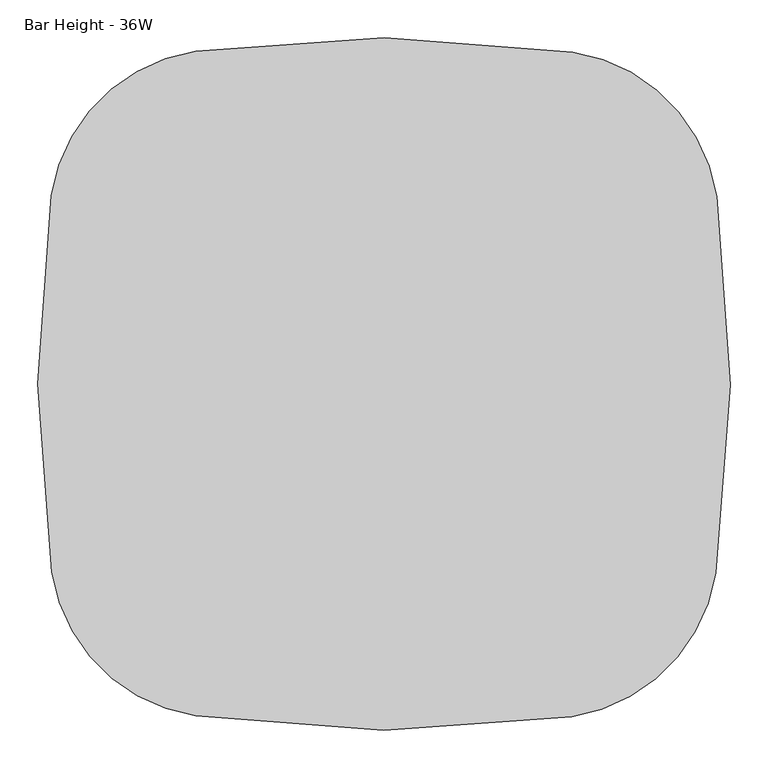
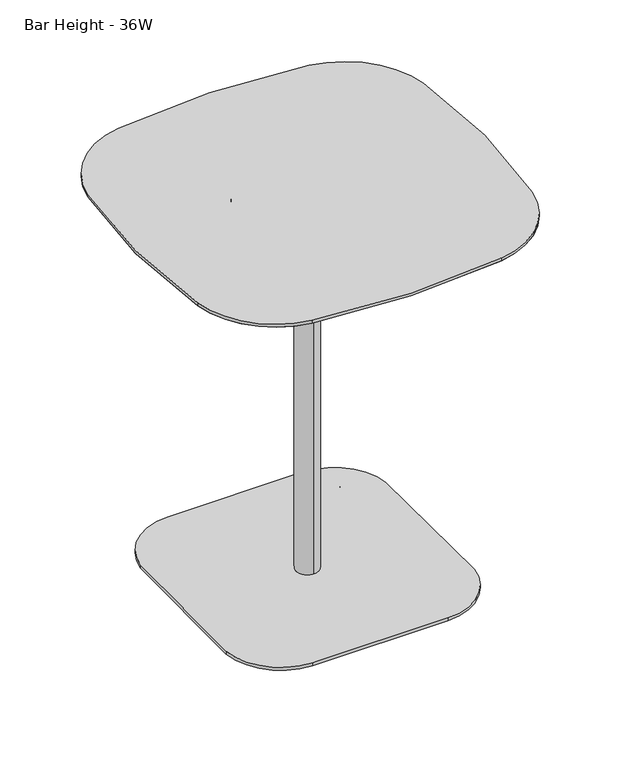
"""IFC4 building model written with IfcOpenShell, lengths in millimetres: furniture geometry, Steelcase Coalesse - Enea Lottus - Table - Cafe : Bar Height - 36W."""

from ifc_helpers import new_model, si_unit, point, frame, frame_2d, origin, origin_with_axes, place, context, project, spatial, polyline, circle_curve, trimmed, segment, composite_curve, outline, extrude, source, transform, mapped, element, save
from ifc_brep_helpers import plane_surface, cylinder_surface, revolved_surface, advanced_brep


def bar_height_36w_06ba3ad4(model_context):
    return source(origin(), model_context, "Body", "SolidModel", [
        advanced_brep(
        [(457.2, -487.0613798, 1030.4223999), (457.2, -427.3386202, 1030.4223999), (457.2, -280.7080839, 1051.1439789), (457.2, -633.6919161, 1051.1439789), (457.2, -457.2, 1030.4223999), (457.2, -633.6919161, 1054.0282142), (457.2, -280.7080839, 1054.0282142), (457.2, -457.2, 1054.0282142)],
        [
            (0, 1, circle_curve(frame((457.2, -457.2, 1030.4223999), z_axis=(0.0, 0.0, 1.0), x_axis=(0.0, 1.0, 0.0)), 29.8613798)),
            (1, 2),
            (2, 3, circle_curve(frame((457.2, -457.2, 1051.1439789), z_axis=(0.0, 0.0, -1.0), x_axis=(0.0, 1.0, 0.0)), 176.4919161)),
            (3, 0),
            (1, 0, circle_curve(frame((457.2, -457.2, 1030.4223999), z_axis=(0.0, 0.0, 1.0), x_axis=(0.0, 1.0, 0.0)), 29.8613798)),
            (3, 2, circle_curve(frame((457.2, -457.2, 1051.1439789), z_axis=(0.0, 0.0, -1.0), x_axis=(0.0, 1.0, 0.0)), 176.4919161)),
            (4, 1),
            (0, 4),
            (5, 6, circle_curve(frame((457.2, -457.2, 1054.0282142), z_axis=(0.0, 0.0, 1.0), x_axis=(0.0, 1.0, 0.0)), 176.4919161)),
            (6, 7),
            (7, 5),
            (6, 5, circle_curve(frame((457.2, -457.2, 1054.0282142), z_axis=(0.0, 0.0, 1.0), x_axis=(0.0, 1.0, 0.0)), 176.4919161)),
            (2, 6),
            (5, 3),
        ],
        [
            revolved_surface(polyline([(457.2, -280.7080839, 1051.1439789), (457.2, -427.3386202, 1030.4223999)]), (457.2, -457.2, 1042.225307), (0.0, 0.0, -1.0)),
            plane_surface(frame((457.2, -457.2, 1030.4223999), z_axis=(0.0, 0.0, -1.0), x_axis=(0.0, 1.0, 0.0))),
            plane_surface(frame((457.2, -457.2, 1054.0282142), z_axis=(0.0, 0.0, 1.0), x_axis=(0.0, 1.0, 0.0))),
            cylinder_surface(frame((457.2, -457.2, 1042.225307), z_axis=(0.0, 0.0, -1.0), x_axis=(0.0, 1.0, 0.0)), 176.4919161),
        ],
        [
            (0, [[1, 2, 3, 4]]),
            (0, [[5, -4, 6, -2]]),
            (1, [[7, -1, 8]]),
            (1, [[-8, -5, -7]]),
            (2, [[9, 10, 11]]),
            (2, [[12, -11, -10]]),
            (3, [[-3, 13, -9, 14]]),
            (3, [[-6, -14, -12, -13]]),
        ],
    ),
        extrude(outline(composite_curve([segment(trimmed(circle_curve(frame_2d((464.9352073, 751.4950935)), 1674.4972799), [point((712.5498092, -904.5931134))], [point((211.7178786, -903.7457122))], False, "CARTESIAN"), True, "CONTINUOUS"), segment(trimmed(circle_curve(frame_2d((246.2867501, -677.7745788)), 228.6), [point((211.7178786, -903.7457122))], [point((20.3156167, -712.3434503))], False, "CARTESIAN"), True, "CONTINUOUS"), segment(trimmed(circle_curve(frame_2d((1675.5564224, -459.1261216)), 1674.4972799), [point((20.3156167, -712.3434503))], [point((19.5955214, -210.6615676))], False, "CARTESIAN"), True, "CONTINUOUS"), segment(trimmed(circle_curve(frame_2d((245.6649612, -244.5815971)), 228.6), [point((19.5955214, -210.6615676))], [point((211.7449317, -18.5121573))], False, "CARTESIAN"), True, "CONTINUOUS"), segment(trimmed(circle_curve(frame_2d((460.2094857, -1674.4730583)), 1674.4972799), [point((211.7449317, -18.5121573))], [point((714.2742157, -19.3621094))], False, "CARTESIAN"), True, "CONTINUOUS"), segment(trimmed(circle_curve(frame_2d((679.5896581, -245.3155149)), 228.6), [point((714.2742157, -19.3621094))], [point((905.6764776, -211.5115197))], False, "CARTESIAN"), True, "CONTINUOUS"), segment(trimmed(circle_curve(frame_2d((-750.4117294, -459.1261216)), 1674.4972799), [point((905.6764776, -211.5115197))], [point((904.6992195, -713.1908516))], False, "CARTESIAN"), True, "CONTINUOUS"), segment(trimmed(circle_curve(frame_2d((678.745814, -678.506294)), 228.6), [point((904.6992195, -713.1908516))], [point((712.5498092, -904.5931134))], False, "CARTESIAN"), True, "CONTINUOUS")], self_intersect=False)), frame((0.0, 0.0, 1059.247009), z_axis=(0.0, 0.0, 1.0), x_axis=(1.0, 0.0, 0.0)), (0.0, 0.0, 1.0), 7.552991),
        advanced_brep(
        [(712.3472958, -31.9150763, 1054.0282142), (893.1160987, -213.3895194, 1054.0282142), (892.1462526, -711.2639317, 1054.0282142), (710.6718095, -892.0327346, 1054.0282142), (213.6383714, -891.1917603, 1054.0282142), (32.8695686, -710.4229574, 1054.0282142), (32.1549347, -212.5460137, 1054.0282142), (213.6293778, -31.0715706, 1054.0282142), (714.2742157, -19.3621094, 1059.247009), (211.7449317, -18.5121573, 1059.247009), (19.5955214, -210.6615676, 1059.247009), (20.3156167, -712.3434503, 1059.247009), (211.7178786, -903.7457122, 1059.247009), (712.5498092, -904.5931134, 1059.247009), (904.6992195, -713.1908516, 1059.247009), (905.6764776, -211.5115197, 1059.247009)],
        [
            (0, 1, circle_curve(frame((679.5896581, -245.3155149, 1054.0282142), z_axis=(0.0, 0.0, -1.0), x_axis=(0.15172597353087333, 0.9884225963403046, 0.0)), 215.9)),
            (1, 2, circle_curve(frame((-750.4117294, -459.1261216, 1054.0282142), z_axis=(0.0, 0.0, -1.0), x_axis=(0.9890062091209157, 0.14787399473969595, 0.0)), 1661.7972799)),
            (2, 3, circle_curve(frame((678.745814, -678.506294, 1054.0282142), z_axis=(0.0, 0.0, -1.0), x_axis=(0.9884225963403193, -0.15172597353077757, 0.0)), 215.9)),
            (3, 4, circle_curve(frame((464.9352073, 751.4950935, 1054.0282142), z_axis=(0.0, 0.0, -1.0), x_axis=(0.14787399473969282, -0.9890062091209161, 0.0)), 1661.7972799)),
            (4, 5, circle_curve(frame((246.2867501, -677.7745788, 1054.0282142), z_axis=(0.0, 0.0, -1.0), x_axis=(-0.15121991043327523, -0.9885001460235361, 0.0)), 215.9)),
            (5, 6, circle_curve(frame((1675.5564224, -459.1261216, 1054.0282142), z_axis=(0.0, 0.0, -1.0), x_axis=(-0.9885001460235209, -0.15121991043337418, 0.0)), 1661.7972799)),
            (6, 7, circle_curve(frame((245.6649612, -244.5815971, 1054.0282142), z_axis=(0.0, 0.0, -1.0), x_axis=(-0.9889301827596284, 0.14838158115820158, 0.0)), 215.9)),
            (7, 0, circle_curve(frame((460.2094857, -1674.4730583, 1054.0282142), z_axis=(0.0, 0.0, -1.0), x_axis=(-0.1483815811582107, 0.9889301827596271, 0.0)), 1661.7972799)),
            (8, 9, circle_curve(frame((460.2094857, -1674.4730583, 1059.247009), z_axis=(0.0, 0.0, 1.0), x_axis=(-0.1483815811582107, 0.9889301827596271, 0.0)), 1674.4972799)),
            (9, 10, circle_curve(frame((245.6649612, -244.5815971, 1059.247009), z_axis=(0.0, 0.0, 1.0), x_axis=(-0.9889301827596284, 0.14838158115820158, 0.0)), 228.6)),
            (10, 11, circle_curve(frame((1675.5564224, -459.1261216, 1059.247009), z_axis=(0.0, 0.0, 1.0), x_axis=(-0.9885001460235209, -0.15121991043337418, 0.0)), 1674.4972799)),
            (11, 12, circle_curve(frame((246.2867501, -677.7745788, 1059.247009), z_axis=(0.0, 0.0, 1.0), x_axis=(-0.15121991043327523, -0.9885001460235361, 0.0)), 228.6)),
            (12, 13, circle_curve(frame((464.9352073, 751.4950935, 1059.247009), z_axis=(0.0, 0.0, 1.0), x_axis=(0.14787399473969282, -0.9890062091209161, 0.0)), 1674.4972799)),
            (13, 14, circle_curve(frame((678.745814, -678.506294, 1059.247009), z_axis=(0.0, 0.0, 1.0), x_axis=(0.9884225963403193, -0.15172597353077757, 0.0)), 228.6)),
            (14, 15, circle_curve(frame((-750.4117294, -459.1261216, 1059.247009), z_axis=(0.0, 0.0, 1.0), x_axis=(0.9890062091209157, 0.14787399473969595, 0.0)), 1674.4972799)),
            (15, 8, circle_curve(frame((679.5896581, -245.3155149, 1059.247009), z_axis=(0.0, 0.0, 1.0), x_axis=(0.15172597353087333, 0.9884225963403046, 0.0)), 228.6)),
            (15, 1),
            (0, 8),
            (14, 2),
            (13, 3),
            (12, 4),
            (11, 5),
            (10, 6),
            (9, 7),
        ],
        [
            plane_surface(frame((462.5717136, -461.7291955, 1054.0282142), z_axis=(0.0, 0.0, -1.0), x_axis=(-0.9884225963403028, 0.1517259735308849, 0.0))),
            plane_surface(frame((462.5717088, -461.7400602, 1059.247009), z_axis=(0.0, 0.0, 1.0), x_axis=(-0.9884225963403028, 0.1517259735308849, 0.0))),
            revolved_surface(polyline([(712.3472958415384, -31.915076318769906, 1054.0282142), (714.2742157, -19.36210940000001, 1059.247009)]), (679.5896581, -245.3155149, 965.3087022), (0.0, 0.0, 1.0)),
            revolved_surface(polyline([(893.1160987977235, -213.38951942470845, 1054.0282142), (905.6764776, -211.5115197, 1059.247009)]), (-750.4117294, -459.1261216, 371.1479748), (0.0, 0.0, 1.0)),
            revolved_surface(polyline([(892.1462525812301, -711.2639317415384, 1054.0282142), (904.6992195, -713.1908516, 1059.247009)]), (678.745814, -678.506294, 965.3087022), (0.0, 0.0, 1.0)),
            revolved_surface(polyline([(710.6718094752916, -892.0327345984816, 1054.0282142), (712.5498092, -904.5931133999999, 1059.247009)]), (464.9352073, 751.4950935, 371.1479748), (0.0, 0.0, 1.0)),
            revolved_surface(polyline([(213.63837145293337, -891.1917603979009, 1054.0282142), (211.7178786, -903.7457122, 1059.247009)]), (246.2867501, -677.7745788, 965.3087022), (0.0, 0.0, 1.0)),
            revolved_surface(polyline([(32.86956850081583, -710.4229574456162, 1054.0282142), (20.315616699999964, -712.3434503, 1059.247009)]), (1675.5564224, -459.1261216, 371.1479748), (0.0, 0.0, 1.0)),
            revolved_surface(polyline([(32.15493466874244, -212.5460136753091, 1054.0282142), (19.595521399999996, -210.6615676, 1059.247009)]), (245.6649612, -244.5815971, 965.3087022), (0.0, 0.0, 1.0)),
            revolved_surface(polyline([(213.62937777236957, -31.071570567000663, 1054.0282142), (211.7449317, -18.5121572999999, 1059.247009)]), (460.2094857, -1674.4730583, 371.1479748), (0.0, 0.0, 1.0)),
        ],
        [
            (0, [[1, 2, 3, 4, 5, 6, 7, 8]]),
            (1, [[9, 10, 11, 12, 13, 14, 15, 16]]),
            (2, [[-16, 17, -1, 18]]),
            (3, [[-15, 19, -2, -17]]),
            (4, [[-14, 20, -3, -19]]),
            (5, [[-13, 21, -4, -20]]),
            (6, [[-12, 22, -5, -21]]),
            (7, [[-11, 23, -6, -22]]),
            (8, [[-10, 24, -7, -23]]),
            (9, [[-9, -18, -8, -24]]),
        ],
    ),
        extrude(outline(composite_curve([segment(trimmed(circle_curve(frame_2d((214.1573668, -214.1557788)), 14.5931535), [point((228.7505203, -214.1557788))], [point((199.5642134, -214.1557788))], False, "CARTESIAN"), True, "CONTINUOUS"), segment(trimmed(circle_curve(frame_2d((214.1573668, -214.1557788)), 14.5931535), [point((199.5642134, -214.1557788))], [point((228.7505203, -214.1557788))], False, "CARTESIAN"), True, "CONTINUOUS")], self_intersect=False)), origin_with_axes(), (0.0, 0.0, 1.0), 12.0681503),
        extrude(outline(composite_curve([segment(trimmed(circle_curve(frame_2d((700.2426332, -214.1557788)), 14.5931535), [point((714.8357866, -214.1557788))], [point((685.6494797, -214.1557788))], False, "CARTESIAN"), True, "CONTINUOUS"), segment(trimmed(circle_curve(frame_2d((700.2426332, -214.1557788)), 14.5931535), [point((685.6494797, -214.1557788))], [point((714.8357866, -214.1557788))], False, "CARTESIAN"), True, "CONTINUOUS")], self_intersect=False)), origin_with_axes(), (0.0, 0.0, 1.0), 12.0681503),
        extrude(outline(composite_curve([segment(trimmed(circle_curve(frame_2d((214.1573668, -700.2442212)), 14.5931535), [point((228.7505203, -700.2442212))], [point((199.5642134, -700.2442212))], False, "CARTESIAN"), True, "CONTINUOUS"), segment(trimmed(circle_curve(frame_2d((214.1573668, -700.2442212)), 14.5931535), [point((199.5642134, -700.2442212))], [point((228.7505203, -700.2442212))], False, "CARTESIAN"), True, "CONTINUOUS")], self_intersect=False)), origin_with_axes(), (0.0, 0.0, 1.0), 12.0681503),
        extrude(outline(composite_curve([segment(trimmed(circle_curve(frame_2d((700.2426332, -700.2442212)), 14.5931535), [point((714.8357866, -700.2442212))], [point((685.6494797, -700.2442212))], False, "CARTESIAN"), True, "CONTINUOUS"), segment(trimmed(circle_curve(frame_2d((700.2426332, -700.2442212)), 14.5931535), [point((685.6494797, -700.2442212))], [point((714.8357866, -700.2442212))], False, "CARTESIAN"), True, "CONTINUOUS")], self_intersect=False)), origin_with_axes(), (0.0, 0.0, 1.0), 12.0681503),
        extrude(outline(composite_curve([segment(trimmed(circle_curve(frame_2d((636.9607189, -268.1533124)), 146.05), [point((639.7264288, -122.1295015))], [point((782.2001859, -252.7877752))], False, "CARTESIAN"), True, "CONTINUOUS"), segment(trimmed(circle_curve(frame_2d((-1245.3172342, -467.2879728)), 2038.8323187), [point((782.2001859, -252.7877752))], [point((784.9554242, -653.9163632))], False, "CARTESIAN"), True, "CONTINUOUS"), segment(trimmed(circle_curve(frame_2d((633.1952474, -639.9661396)), 152.4), [point((784.9554242, -653.9163632))], [point((636.0203938, -792.3399515))], False, "CARTESIAN"), True, "CONTINUOUS"), segment(trimmed(circle_curve(frame_2d((463.8481103, 8493.7442651)), 9287.6801932), [point((636.0203938, -792.3399515))], [point((278.1338209, -792.0789927))], False, "CARTESIAN"), True, "CONTINUOUS"), segment(trimmed(circle_curve(frame_2d((281.1811758, -639.7094628)), 152.4), [point((278.1338209, -792.0789927))], [point((129.4190943, -653.6389502))], False, "CARTESIAN"), True, "CONTINUOUS"), segment(trimmed(circle_curve(frame_2d((2159.7172342, -467.2879728)), 2038.8323187), [point((129.4190943, -653.6389502))], [point((131.543094, -259.0888363))], False, "CARTESIAN"), True, "CONTINUOUS"), segment(trimmed(circle_curve(frame_2d((283.1464093, -274.6514445)), 152.4), [point((131.543094, -259.0888363))], [point((280.1318396, -122.2812624))], False, "CARTESIAN"), True, "CONTINUOUS"), segment(trimmed(circle_curve(frame_2d((463.8481103, -9408.1442651)), 9287.6801932), [point((280.1318396, -122.2812624))], [point((639.7264288, -122.1295015))], False, "CARTESIAN"), True, "CONTINUOUS")], self_intersect=False)), frame((0.0, 0.0, 12.0681503), z_axis=(0.0, 0.0, 1.0), x_axis=(1.0, 0.0, 0.0)), (0.0, 0.0, 1.0), 7.874),
        extrude(outline(composite_curve([segment(trimmed(circle_curve(frame_2d((457.2, -457.2)), 29.8613798), [point((457.2, -487.0613798))], [point((457.2, -427.3386202))], False, "CARTESIAN"), True, "CONTINUOUS"), segment(trimmed(circle_curve(frame_2d((457.2, -457.2)), 29.8613798), [point((457.2, -427.3386202))], [point((457.2, -487.0613798))], False, "CARTESIAN"), True, "CONTINUOUS")], self_intersect=False)), frame((0.0, 0.0, 19.9421503), z_axis=(0.0, 0.0, 1.0), x_axis=(1.0, 0.0, 0.0)), (0.0, 0.0, 1.0), 1010.4802496),
    ])


if __name__ == "__main__":
    model = new_model("IFC4")
    model_context = context("Model", 3, world=origin())
    ifc_project = project(units=[si_unit("LENGTHUNIT", "METRE", prefix="MILLI")], contexts=[model_context])
    site = spatial("IfcSite", under=ifc_project)
    building = spatial("IfcBuilding", under=site)
    placement = place(None, origin())
    bar_height_36w_shape = bar_height_36w_06ba3ad4(model_context)
    element("IfcFurniture", 1, ObjectType="Steelcase Coalesse - Enea Lottus - Table - Cafe : Bar Height - 36W", at=placement, inside=building, context=model_context, shape_type="MappedRepresentation", body=[
        mapped(bar_height_36w_shape, transform((0.0, 0.0, 0.0), x_axis=(1.0, 0.0, 0.0), y_axis=(0.0, 1.0, 0.0), z_axis=(0.0, 0.0, 1.0))),
    ])
    save(model, "model.ifc")
